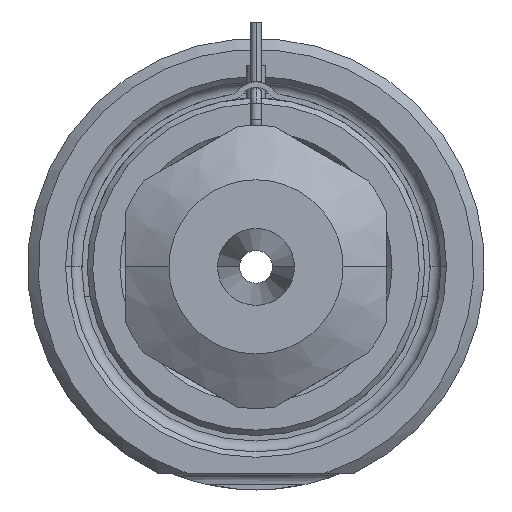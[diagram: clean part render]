
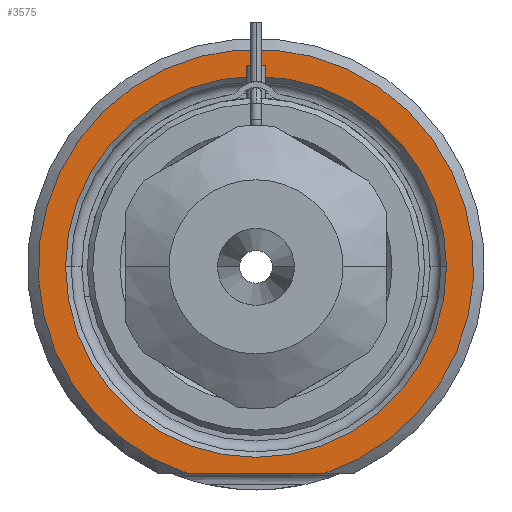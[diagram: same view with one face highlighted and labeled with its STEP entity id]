
A CAD part, front view. The second image highlights one B-rep face of the part: STEP entity #3575.
In plain terms, the highlighted planar face has unit normal (0, -1, 0).
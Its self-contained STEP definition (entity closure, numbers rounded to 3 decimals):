
#708=DIRECTION('',(1.,0.,0.));
#709=VECTOR('',#708,12.49);
#710=CARTESIAN_POINT('',(-6.245,0.,-19.));
#711=LINE('',#710,#709);
#712=CARTESIAN_POINT('',(0.,0.,0.));
#713=DIRECTION('',(0.,1.,0.));
#714=DIRECTION('',(-1.,0.,0.));
#715=AXIS2_PLACEMENT_3D('',#712,#713,#714);
#717=CARTESIAN_POINT('',(0.,0.,0.));
#718=DIRECTION('',(0.,1.,0.));
#719=DIRECTION('',(1.,0.,0.));
#720=AXIS2_PLACEMENT_3D('',#717,#718,#719);
#826=CARTESIAN_POINT('',(0.,0.,0.));
#827=DIRECTION('',(0.,-1.,0.));
#828=DIRECTION('',(0.312,0.,-0.95));
#829=AXIS2_PLACEMENT_3D('',#826,#827,#828);
#2400=CARTESIAN_POINT('',(-17.5,0.,0.));
#2401=CARTESIAN_POINT('',(17.5,0.,0.));
#2402=VERTEX_POINT('',#2400);
#2403=VERTEX_POINT('',#2401);
#2458=CARTESIAN_POINT('',(-6.245,0.,-19.));
#2459=CARTESIAN_POINT('',(6.245,0.,-19.));
#2460=VERTEX_POINT('',#2458);
#2461=VERTEX_POINT('',#2459);
#3559=CARTESIAN_POINT('',(0.,0.,0.));
#3560=DIRECTION('',(0.,-1.,0.));
#3561=DIRECTION('',(1.,0.,0.));
#3562=AXIS2_PLACEMENT_3D('',#3559,#3560,#3561);
#3563=PLANE('',#3562);
#3565=ORIENTED_EDGE('',*,*,#3564,.F.);
#3567=ORIENTED_EDGE('',*,*,#3566,.F.);
#3568=EDGE_LOOP('',(#3565,#3567));
#3569=FACE_OUTER_BOUND('',#3568,.F.);
#3570=ORIENTED_EDGE('',*,*,#3549,.F.);
#3572=ORIENTED_EDGE('',*,*,#3571,.F.);
#3573=EDGE_LOOP('',(#3570,#3572));
#3574=FACE_BOUND('',#3573,.F.);
#3575=ADVANCED_FACE('',(#3569,#3574),#3563,.T.);
#716=CIRCLE('',#715,17.5);
#721=CIRCLE('',#720,17.5);
#830=CIRCLE('',#829,20.);
#3549=EDGE_CURVE('',#2402,#2403,#716,.T.);
#3564=EDGE_CURVE('',#2460,#2461,#711,.T.);
#3566=EDGE_CURVE('',#2461,#2460,#830,.T.);
#3571=EDGE_CURVE('',#2403,#2402,#721,.T.);
